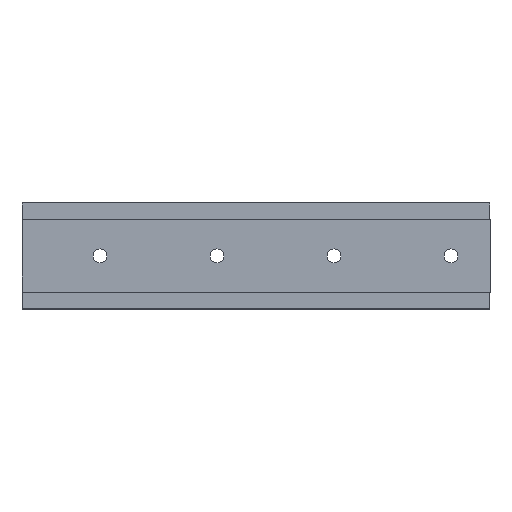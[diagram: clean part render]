
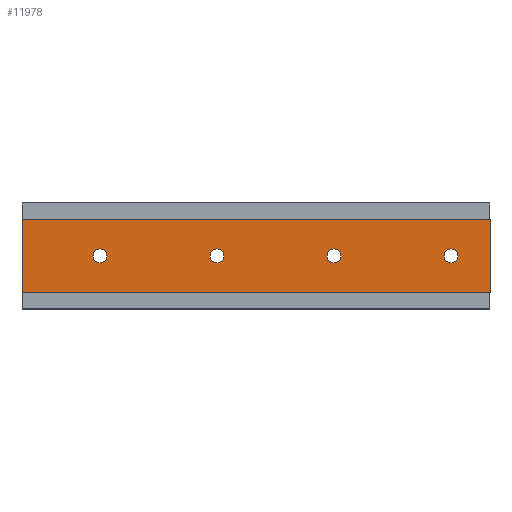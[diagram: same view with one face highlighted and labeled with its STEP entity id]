
A CAD part, top view. The second image highlights one B-rep face of the part: STEP entity #11978.
In plain terms, the highlighted planar face has unit normal (0, 0, 1).
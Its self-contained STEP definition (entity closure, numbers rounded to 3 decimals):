
#100 = DIRECTION ( 'NONE',  ( -1., 0., 0. ) ) ;
#256 = VERTEX_POINT ( 'NONE', #4591 ) ;
#270 = CARTESIAN_POINT ( 'NONE',  ( -22.359, 14.925, 3. ) ) ;
#392 = ORIENTED_EDGE ( 'NONE', *, *, #4901, .T. ) ;
#483 = DIRECTION ( 'NONE',  ( -1., 0., 0. ) ) ;
#491 = CIRCLE ( 'NONE', #8739, 1.25 ) ;
#528 = EDGE_CURVE ( 'NONE', #14701, #7703, #1048, .T. ) ;
#880 = CARTESIAN_POINT ( 'NONE',  ( 18.391, 14.925, 3. ) ) ;
#934 = EDGE_LOOP ( 'NONE', ( #14075, #392, #11963, #3038 ) ) ;
#1048 = CIRCLE ( 'NONE', #7849, 1.25 ) ;
#1049 = CARTESIAN_POINT ( 'NONE',  ( -57.359, 8.425, 3. ) ) ;
#1051 = VECTOR ( 'NONE', #483, 1000. ) ;
#1242 = DIRECTION ( 'NONE',  ( -1., 0., 0. ) ) ;
#1247 = ORIENTED_EDGE ( 'NONE', *, *, #15636, .T. ) ;
#1326 = CIRCLE ( 'NONE', #11424, 1.25 ) ;
#1525 = VECTOR ( 'NONE', #10569, 1000. ) ;
#1570 = AXIS2_PLACEMENT_3D ( 'NONE', #9762, #11082, #8449 ) ;
#1851 = FACE_BOUND ( 'NONE', #3276, .T. ) ;
#1963 = CARTESIAN_POINT ( 'NONE',  ( -57.359, 21.425, 3. ) ) ;
#2782 = ORIENTED_EDGE ( 'NONE', *, *, #5241, .T. ) ;
#2807 = EDGE_CURVE ( 'NONE', #15238, #11134, #15783, .T. ) ;
#3038 = ORIENTED_EDGE ( 'NONE', *, *, #13315, .T. ) ;
#3276 = EDGE_LOOP ( 'NONE', ( #1247, #9329 ) ) ;
#3397 = CIRCLE ( 'NONE', #5501, 1.25 ) ;
#3445 = CARTESIAN_POINT ( 'NONE',  ( 26.641, 21.425, 3. ) ) ;
#3609 = CIRCLE ( 'NONE', #14263, 1.25 ) ;
#3742 = CIRCLE ( 'NONE', #9249, 1.25 ) ;
#3783 = CARTESIAN_POINT ( 'NONE',  ( -21.109, 14.925, 3. ) ) ;
#3970 = VECTOR ( 'NONE', #6008, 1000. ) ;
#4591 = CARTESIAN_POINT ( 'NONE',  ( -23.609, 14.925, 3. ) ) ;
#4901 = EDGE_CURVE ( 'NONE', #11134, #8662, #5161, .T. ) ;
#4908 = DIRECTION ( 'NONE',  ( 0., 0., -1. ) ) ;
#4940 = DIRECTION ( 'NONE',  ( 0., 0., -1. ) ) ;
#5018 = DIRECTION ( 'NONE',  ( -1., 0., 0. ) ) ;
#5116 = CARTESIAN_POINT ( 'NONE',  ( -22.359, 14.925, 3. ) ) ;
#5123 = DIRECTION ( 'NONE',  ( 0., 1., 0. ) ) ;
#5161 = LINE ( 'NONE', #1963, #1051 ) ;
#5166 = FACE_BOUND ( 'NONE', #15991, .T. ) ;
#5173 = CARTESIAN_POINT ( 'NONE',  ( -15.359, 14.925, 3. ) ) ;
#5241 = EDGE_CURVE ( 'NONE', #256, #14912, #3397, .T. ) ;
#5458 = DIRECTION ( 'NONE',  ( 0., 0., -1. ) ) ;
#5501 = AXIS2_PLACEMENT_3D ( 'NONE', #5116, #13905, #7479 ) ;
#5779 = CARTESIAN_POINT ( 'NONE',  ( -43.359, 14.925, 3. ) ) ;
#6008 = DIRECTION ( 'NONE',  ( 0., -1., 0. ) ) ;
#6089 = CIRCLE ( 'NONE', #1570, 1.25 ) ;
#6312 = DIRECTION ( 'NONE',  ( 0., 0., -1. ) ) ;
#6366 = DIRECTION ( 'NONE',  ( -1., 0., 0. ) ) ;
#6498 = CARTESIAN_POINT ( 'NONE',  ( 19.641, 14.925, 3. ) ) ;
#6692 = DIRECTION ( 'NONE',  ( -1., 0., 0. ) ) ;
#6895 = CARTESIAN_POINT ( 'NONE',  ( 20.891, 14.925, 3. ) ) ;
#7031 = CARTESIAN_POINT ( 'NONE',  ( 26.641, 8.425, 3. ) ) ;
#7092 = VECTOR ( 'NONE', #5123, 1000. ) ;
#7390 = ORIENTED_EDGE ( 'NONE', *, *, #11760, .T. ) ;
#7432 = CARTESIAN_POINT ( 'NONE',  ( -2.609, 14.925, 3. ) ) ;
#7479 = DIRECTION ( 'NONE',  ( -1., 0., 0. ) ) ;
#7696 = ORIENTED_EDGE ( 'NONE', *, *, #15922, .T. ) ;
#7703 = VERTEX_POINT ( 'NONE', #880 ) ;
#7731 = DIRECTION ( 'NONE',  ( 0., 0., -1. ) ) ;
#7760 = EDGE_CURVE ( 'NONE', #8662, #10647, #13171, .T. ) ;
#7777 = EDGE_CURVE ( 'NONE', #11099, #9630, #6089, .T. ) ;
#7849 = AXIS2_PLACEMENT_3D ( 'NONE', #6498, #7731, #100 ) ;
#8081 = FACE_BOUND ( 'NONE', #12176, .T. ) ;
#8121 = VERTEX_POINT ( 'NONE', #9514 ) ;
#8407 = PLANE ( 'NONE',  #14569 ) ;
#8449 = DIRECTION ( 'NONE',  ( -1., 0., 0. ) ) ;
#8662 = VERTEX_POINT ( 'NONE', #12200 ) ;
#8739 = AXIS2_PLACEMENT_3D ( 'NONE', #5779, #5458, #6692 ) ;
#8765 = EDGE_CURVE ( 'NONE', #9630, #11099, #1326, .T. ) ;
#8833 = DIRECTION ( 'NONE',  ( -1., 0., 0. ) ) ;
#8841 = DIRECTION ( 'NONE',  ( 0., 0., 1. ) ) ;
#9249 = AXIS2_PLACEMENT_3D ( 'NONE', #12557, #6312, #6366 ) ;
#9271 = CIRCLE ( 'NONE', #10853, 1.25 ) ;
#9329 = ORIENTED_EDGE ( 'NONE', *, *, #10357, .T. ) ;
#9445 = FACE_OUTER_BOUND ( 'NONE', #934, .T. ) ;
#9514 = CARTESIAN_POINT ( 'NONE',  ( -42.109, 14.925, 3. ) ) ;
#9594 = CARTESIAN_POINT ( 'NONE',  ( -0.109, 14.925, 3. ) ) ;
#9630 = VERTEX_POINT ( 'NONE', #7432 ) ;
#9762 = CARTESIAN_POINT ( 'NONE',  ( -1.359, 14.925, 3. ) ) ;
#9812 = CARTESIAN_POINT ( 'NONE',  ( -57.359, 21.425, 3. ) ) ;
#10357 = EDGE_CURVE ( 'NONE', #8121, #10564, #3742, .T. ) ;
#10502 = CARTESIAN_POINT ( 'NONE',  ( -57.359, 8.425, 3. ) ) ;
#10564 = VERTEX_POINT ( 'NONE', #13323 ) ;
#10569 = DIRECTION ( 'NONE',  ( 1., 0., 0. ) ) ;
#10647 = VERTEX_POINT ( 'NONE', #1049 ) ;
#10824 = ORIENTED_EDGE ( 'NONE', *, *, #7777, .T. ) ;
#10853 = AXIS2_PLACEMENT_3D ( 'NONE', #270, #11364, #8833 ) ;
#11082 = DIRECTION ( 'NONE',  ( 0., 0., -1. ) ) ;
#11085 = CARTESIAN_POINT ( 'NONE',  ( -1.359, 14.925, 3. ) ) ;
#11099 = VERTEX_POINT ( 'NONE', #9594 ) ;
#11134 = VERTEX_POINT ( 'NONE', #3445 ) ;
#11364 = DIRECTION ( 'NONE',  ( 0., 0., -1. ) ) ;
#11424 = AXIS2_PLACEMENT_3D ( 'NONE', #11085, #4908, #5018 ) ;
#11760 = EDGE_CURVE ( 'NONE', #14912, #256, #9271, .T. ) ;
#11885 = LINE ( 'NONE', #10502, #1525 ) ;
#11963 = ORIENTED_EDGE ( 'NONE', *, *, #7760, .T. ) ;
#11978 = ADVANCED_FACE ( 'NONE', ( #12216, #8081, #5166, #1851, #9445 ), #8407, .T. ) ;
#12176 = EDGE_LOOP ( 'NONE', ( #15735, #10824 ) ) ;
#12200 = CARTESIAN_POINT ( 'NONE',  ( -57.359, 21.425, 3. ) ) ;
#12216 = FACE_BOUND ( 'NONE', #12682, .T. ) ;
#12458 = CARTESIAN_POINT ( 'NONE',  ( 19.641, 14.925, 3. ) ) ;
#12557 = CARTESIAN_POINT ( 'NONE',  ( -43.359, 14.925, 3. ) ) ;
#12682 = EDGE_LOOP ( 'NONE', ( #7696, #15787 ) ) ;
#13171 = LINE ( 'NONE', #9812, #3970 ) ;
#13315 = EDGE_CURVE ( 'NONE', #10647, #15238, #11885, .T. ) ;
#13323 = CARTESIAN_POINT ( 'NONE',  ( -44.609, 14.925, 3. ) ) ;
#13905 = DIRECTION ( 'NONE',  ( 0., 0., -1. ) ) ;
#13972 = CARTESIAN_POINT ( 'NONE',  ( 26.641, 21.425, 3. ) ) ;
#13995 = DIRECTION ( 'NONE',  ( 1., 0., 0. ) ) ;
#14075 = ORIENTED_EDGE ( 'NONE', *, *, #2807, .T. ) ;
#14263 = AXIS2_PLACEMENT_3D ( 'NONE', #12458, #4940, #1242 ) ;
#14569 = AXIS2_PLACEMENT_3D ( 'NONE', #5173, #8841, #13995 ) ;
#14701 = VERTEX_POINT ( 'NONE', #6895 ) ;
#14912 = VERTEX_POINT ( 'NONE', #3783 ) ;
#15238 = VERTEX_POINT ( 'NONE', #7031 ) ;
#15636 = EDGE_CURVE ( 'NONE', #10564, #8121, #491, .T. ) ;
#15735 = ORIENTED_EDGE ( 'NONE', *, *, #8765, .T. ) ;
#15783 = LINE ( 'NONE', #13972, #7092 ) ;
#15787 = ORIENTED_EDGE ( 'NONE', *, *, #528, .T. ) ;
#15922 = EDGE_CURVE ( 'NONE', #7703, #14701, #3609, .T. ) ;
#15991 = EDGE_LOOP ( 'NONE', ( #2782, #7390 ) ) ;
